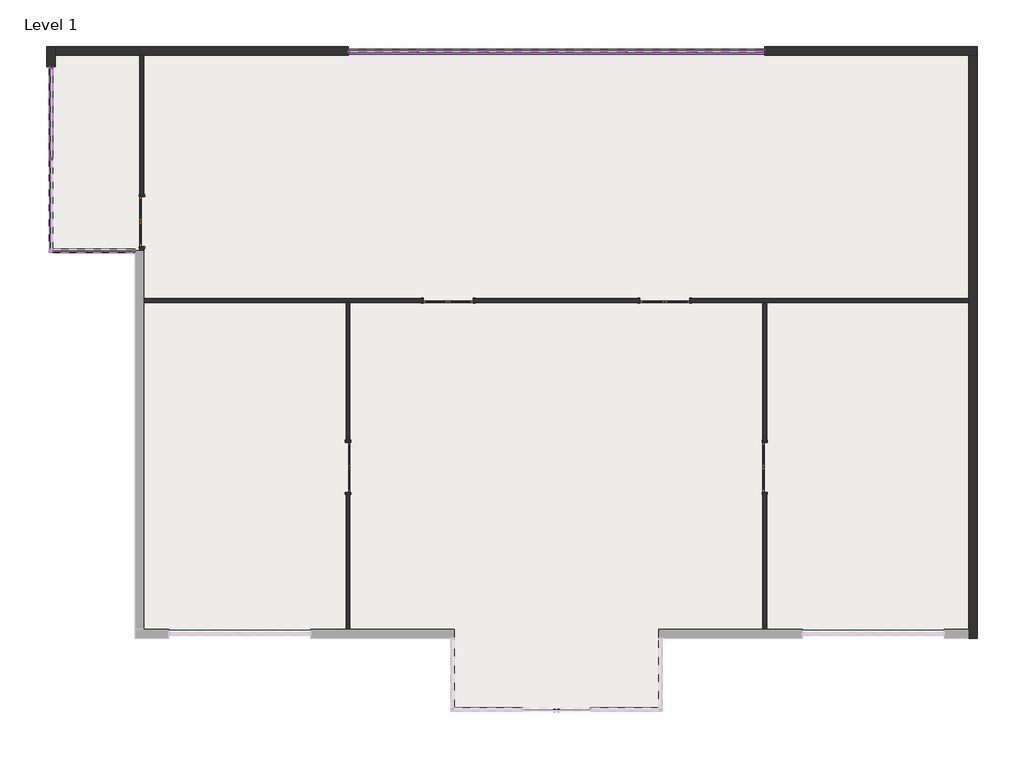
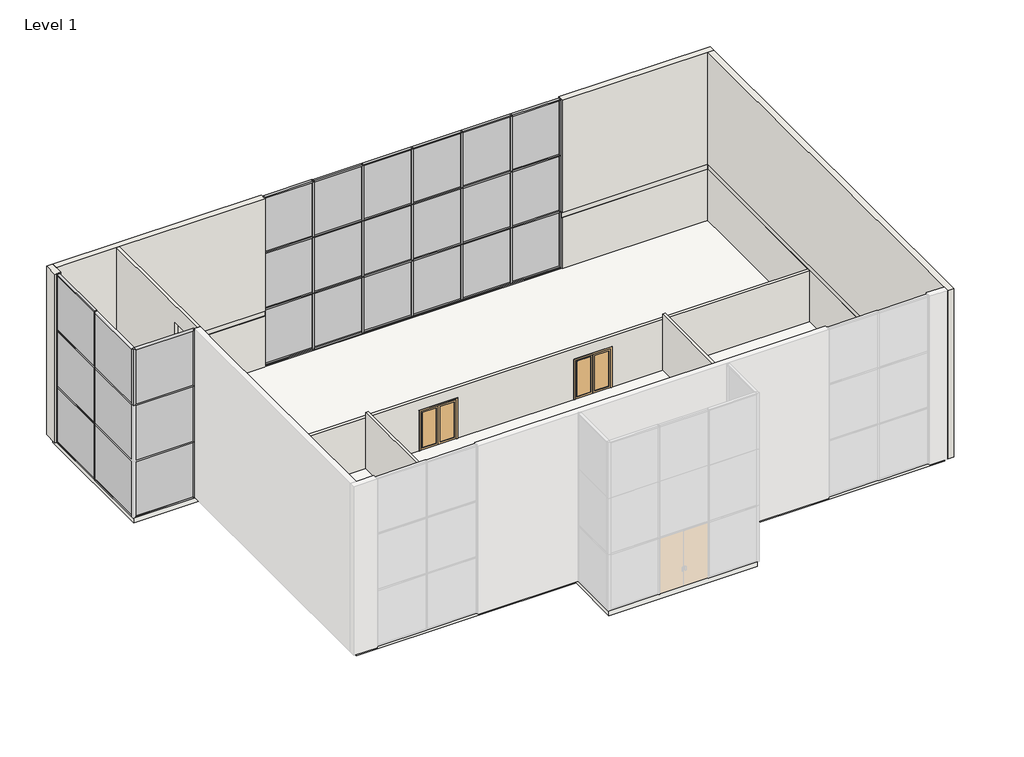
# One storey, part 2 of 2: 61 members, 27 plates, 7 walls, 5 doors, 1 slab.
"""IFC4 building model written with IfcOpenShell, lengths in millimetres."""

from ifc_helpers import new_model, si_unit, frame, origin, place, context, project, spatial, polyline, outline, extrude, faceted_brep, transform, mapped, element, save
from components import door_cb31edf2, door_3f2f997e, member_092dde94, member_3f395ae9, member_65a3e7b2, member_eaba9652, member_4955b6a0, member_9c76a069, member_1f84ea9c, member_2d82c926, member_728bf22d, member_0c17b8a1, system_panel_glazed_e83c8d5a, system_panel_glazed_b0f97b96, system_panel_glazed_f5e36016, system_panel_glazed_d42ca814, system_panel_glazed_c65d631f, system_panel_glazed_26911bd7, system_panel_glazed_bd540f61, system_panel_glazed_3bf1a00e

model = new_model("IFC4")

# Units and contexts
model_context = context("Model", 3, world=origin())
ifc_project = project(units=[si_unit("LENGTHUNIT", "METRE", prefix="MILLI")], contexts=[model_context])

# Site, building, storey
site = spatial("IfcSite", under=ifc_project)
building = spatial("IfcBuilding", under=site)
storey = spatial("IfcBuildingStorey", under=building, Name="Level 1", Elevation=0.0)

# Doors
placement = place(None, origin())
door_shape = door_cb31edf2(model_context)
element("IfcDoor", 1, ObjectType="Door-Double-Glass : 72\" x 84\"", at=placement, inside=storey, context=model_context, shape_type="MappedRepresentation", body=[
    mapped(door_shape, transform((-18248.748632, 9505.1983604, 0.0), x_axis=(0.0, 1.0, 0.0), y_axis=(-1.0, 0.0, 0.0), z_axis=(0.0, 0.0, 1.0))),
])
door_2_shape = door_3f2f997e(model_context)
element("IfcDoor", 2, ObjectType="Door-Double-Glass : 72\" x 84\"", at=placement, inside=storey, context=model_context, shape_type="MappedRepresentation", body=[
    mapped(door_2_shape, transform((-10711.298632, 513.5983604, 0.0), x_axis=(0.0, -1.0, 0.0), y_axis=(1.0, 0.0, 0.0), z_axis=(0.0, 0.0, 1.0))),
])
element("IfcDoor", 3, ObjectType="Door-Double-Glass : 72\" x 84\"", at=placement, inside=storey, context=model_context, shape_type="MappedRepresentation", body=[
    mapped(door_2_shape, transform((4533.463868, 513.5983604, 0.0), x_axis=(0.0, 1.0, 0.0), y_axis=(-1.0, 0.0, 0.0), z_axis=(0.0, 0.0, 1.0))),
])
element("IfcDoor", 4, ObjectType="Door-Double-Glass : 72\" x 84\"", at=placement, inside=storey, context=model_context, shape_type="MappedRepresentation", body=[
    mapped(door_2_shape, transform((-7051.317382, 6611.9796104, 0.0), x_axis=(-1.0, 0.0, 0.0), y_axis=(0.0, -1.0, 0.0), z_axis=(0.0, 0.0, 1.0))),
])
element("IfcDoor", 5, ObjectType="Door-Double-Glass : 72\" x 84\"", at=placement, inside=storey, context=model_context, shape_type="MappedRepresentation", body=[
    mapped(door_2_shape, transform((873.482618, 6611.9796104, 0.0), x_axis=(-1.0, 0.0, 0.0), y_axis=(0.0, -1.0, 0.0), z_axis=(0.0, 0.0, 1.0))),
])

# Members
member_shape = member_092dde94(model_context)
element("IfcMember", 6, ObjectType="Quad Corner Mullion : 5\" x 5\" Quad Corner", at=placement, inside=storey, context=model_context, shape_type="MappedRepresentation", body=[
    mapped(member_shape, transform((-21580.117382, 8438.3983604, 6096.0), x_axis=(-1.0, 0.0, 0.0), y_axis=(0.0, 1.0, 0.0), z_axis=(0.0, 0.0, -1.0))),
])
member_2_shape = member_3f395ae9(model_context)
element("IfcMember", 7, ObjectType="Rectangular Mullion : 2.5\" x 5\" rectangular", at=placement, inside=storey, context=model_context, shape_type="MappedRepresentation", body=[
    mapped(member_2_shape, transform((-18484.492382, 8438.3983604, 9144.0), x_axis=(1.0, 0.0, 0.0), y_axis=(0.0, 1.0, 0.0), z_axis=(0.0, 0.0, 1.0))),
])
element("IfcMember", 8, ObjectType="Rectangular Mullion : 2.5\" x 5\" rectangular", at=placement, inside=storey, context=model_context, shape_type="MappedRepresentation", body=[
    mapped(member_2_shape, transform((-18484.492382, 8438.3983604, 3048.0), x_axis=(1.0, 0.0, 0.0), y_axis=(0.0, 1.0, 0.0), z_axis=(0.0, 0.0, 1.0))),
])
member_3_shape = member_65a3e7b2(model_context)
element("IfcMember", 9, ObjectType="Rectangular Mullion : 2.5\" x 5\" rectangular", at=placement, inside=storey, context=model_context, shape_type="MappedRepresentation", body=[
    mapped(member_3_shape, transform((-10645.417382, 15753.5983604, 9144.0), x_axis=(0.0, 0.0, 1.0), y_axis=(0.0, 1.0, 0.0), z_axis=(-1.0, 0.0, 0.0))),
])
element("IfcMember", 10, ObjectType="Rectangular Mullion : 2.5\" x 5\" rectangular", at=placement, inside=storey, context=model_context, shape_type="MappedRepresentation", body=[
    mapped(member_3_shape, transform((2022.8326178, 15753.5983604, 9144.0), x_axis=(0.0, 0.0, 1.0), y_axis=(0.0, 1.0, 0.0), z_axis=(-1.0, 0.0, 0.0))),
])
element("IfcMember", 11, ObjectType="Rectangular Mullion : 2.5\" x 5\" rectangular", at=placement, inside=storey, context=model_context, shape_type="MappedRepresentation", body=[
    mapped(member_3_shape, transform((4467.582618, 15753.5983604, 0.0), x_axis=(0.0, 0.0, -1.0), y_axis=(0.0, 1.0, 0.0), z_axis=(1.0, 0.0, 0.0))),
])
element("IfcMember", 12, ObjectType="Rectangular Mullion : 2.5\" x 5\" rectangular", at=placement, inside=storey, context=model_context, shape_type="MappedRepresentation", body=[
    mapped(member_3_shape, transform((-8200.6673818, 15753.5983604, 0.0), x_axis=(0.0, 0.0, -1.0), y_axis=(0.0, 1.0, 0.0), z_axis=(1.0, 0.0, 0.0))),
])
member_4_shape = member_eaba9652(model_context)
element("IfcMember", 13, ObjectType="Rectangular Mullion : 2.5\" x 5\" rectangular", at=placement, inside=storey, context=model_context, shape_type="MappedRepresentation", body=[
    mapped(member_4_shape, transform((1991.0826178, 15753.5983604, 0.0), x_axis=(-1.0, 0.0, 0.0), y_axis=(0.0, 1.0, 0.0), z_axis=(0.0, 0.0, -1.0))),
])
element("IfcMember", 14, ObjectType="Rectangular Mullion : 2.5\" x 5\" rectangular", at=placement, inside=storey, context=model_context, shape_type="MappedRepresentation", body=[
    mapped(member_4_shape, transform((-548.9173821, 15753.5983604, 0.0), x_axis=(-1.0, 0.0, 0.0), y_axis=(0.0, 1.0, 0.0), z_axis=(0.0, 0.0, -1.0))),
])
element("IfcMember", 15, ObjectType="Rectangular Mullion : 2.5\" x 5\" rectangular", at=placement, inside=storey, context=model_context, shape_type="MappedRepresentation", body=[
    mapped(member_4_shape, transform((-3088.917382, 15753.5983604, 0.0), x_axis=(-1.0, 0.0, 0.0), y_axis=(0.0, 1.0, 0.0), z_axis=(0.0, 0.0, -1.0))),
])
element("IfcMember", 16, ObjectType="Rectangular Mullion : 2.5\" x 5\" rectangular", at=placement, inside=storey, context=model_context, shape_type="MappedRepresentation", body=[
    mapped(member_4_shape, transform((-5628.9173819, 15753.5983604, 0.0), x_axis=(-1.0, 0.0, 0.0), y_axis=(0.0, 1.0, 0.0), z_axis=(0.0, 0.0, -1.0))),
])
element("IfcMember", 17, ObjectType="Rectangular Mullion : 2.5\" x 5\" rectangular", at=placement, inside=storey, context=model_context, shape_type="MappedRepresentation", body=[
    mapped(member_4_shape, transform((-8168.9173818, 15753.5983604, 0.0), x_axis=(-1.0, 0.0, 0.0), y_axis=(0.0, 1.0, 0.0), z_axis=(0.0, 0.0, -1.0))),
])
element("IfcMember", 18, ObjectType="Rectangular Mullion : 2.5\" x 5\" rectangular", at=placement, inside=storey, context=model_context, shape_type="MappedRepresentation", body=[
    mapped(member_4_shape, transform((-21580.117382, 11807.0733604, 0.0), x_axis=(0.0, -1.0, 0.0), y_axis=(-1.0, 0.0, 0.0), z_axis=(0.0, 0.0, -1.0))),
])
member_5_shape = member_4955b6a0(model_context)
element("IfcMember", 19, ObjectType="Rectangular Mullion : 2.5\" x 5\" rectangular", at=placement, inside=storey, context=model_context, shape_type="MappedRepresentation", body=[
    mapped(member_5_shape, transform((2022.8326178, 15753.5983604, 3048.0), x_axis=(0.0, 0.0, 1.0), y_axis=(0.0, 1.0, 0.0), z_axis=(-1.0, 0.0, 0.0))),
])
element("IfcMember", 20, ObjectType="Rectangular Mullion : 2.5\" x 5\" rectangular", at=placement, inside=storey, context=model_context, shape_type="MappedRepresentation", body=[
    mapped(member_5_shape, transform((-10645.417382, 15753.5983604, 3048.0), x_axis=(0.0, 0.0, 1.0), y_axis=(0.0, 1.0, 0.0), z_axis=(-1.0, 0.0, 0.0))),
])
element("IfcMember", 21, ObjectType="Rectangular Mullion : 2.5\" x 5\" rectangular", at=placement, inside=storey, context=model_context, shape_type="MappedRepresentation", body=[
    mapped(member_5_shape, transform((2022.8326178, 15753.5983604, 6096.0), x_axis=(0.0, 0.0, 1.0), y_axis=(0.0, 1.0, 0.0), z_axis=(-1.0, 0.0, 0.0))),
])
element("IfcMember", 22, ObjectType="Rectangular Mullion : 2.5\" x 5\" rectangular", at=placement, inside=storey, context=model_context, shape_type="MappedRepresentation", body=[
    mapped(member_5_shape, transform((-10645.417382, 15753.5983604, 6096.0), x_axis=(0.0, 0.0, 1.0), y_axis=(0.0, 1.0, 0.0), z_axis=(-1.0, 0.0, 0.0))),
])
member_6_shape = member_9c76a069(model_context)
element("IfcMember", 23, ObjectType="Rectangular Mullion : 2.5\" x 5\" rectangular", at=placement, inside=storey, context=model_context, shape_type="MappedRepresentation", body=[
    mapped(member_6_shape, transform((-517.1673821, 15753.5983604, 3048.0), x_axis=(0.0, 0.0, 1.0), y_axis=(0.0, 1.0, 0.0), z_axis=(-1.0, 0.0, 0.0))),
])
element("IfcMember", 24, ObjectType="Rectangular Mullion : 2.5\" x 5\" rectangular", at=placement, inside=storey, context=model_context, shape_type="MappedRepresentation", body=[
    mapped(member_6_shape, transform((-3057.167382, 15753.5983604, 3048.0), x_axis=(0.0, 0.0, 1.0), y_axis=(0.0, 1.0, 0.0), z_axis=(-1.0, 0.0, 0.0))),
])
element("IfcMember", 25, ObjectType="Rectangular Mullion : 2.5\" x 5\" rectangular", at=placement, inside=storey, context=model_context, shape_type="MappedRepresentation", body=[
    mapped(member_6_shape, transform((-5597.1673819, 15753.5983604, 3048.0), x_axis=(0.0, 0.0, 1.0), y_axis=(0.0, 1.0, 0.0), z_axis=(-1.0, 0.0, 0.0))),
])
element("IfcMember", 26, ObjectType="Rectangular Mullion : 2.5\" x 5\" rectangular", at=placement, inside=storey, context=model_context, shape_type="MappedRepresentation", body=[
    mapped(member_6_shape, transform((-8137.1673818, 15753.5983604, 3048.0), x_axis=(0.0, 0.0, 1.0), y_axis=(0.0, 1.0, 0.0), z_axis=(-1.0, 0.0, 0.0))),
])
element("IfcMember", 27, ObjectType="Rectangular Mullion : 2.5\" x 5\" rectangular", at=placement, inside=storey, context=model_context, shape_type="MappedRepresentation", body=[
    mapped(member_6_shape, transform((-517.1673821, 15753.5983604, 6096.0), x_axis=(0.0, 0.0, 1.0), y_axis=(0.0, 1.0, 0.0), z_axis=(-1.0, 0.0, 0.0))),
])
element("IfcMember", 28, ObjectType="Rectangular Mullion : 2.5\" x 5\" rectangular", at=placement, inside=storey, context=model_context, shape_type="MappedRepresentation", body=[
    mapped(member_6_shape, transform((-3057.167382, 15753.5983604, 6096.0), x_axis=(0.0, 0.0, 1.0), y_axis=(0.0, 1.0, 0.0), z_axis=(-1.0, 0.0, 0.0))),
])
element("IfcMember", 29, ObjectType="Rectangular Mullion : 2.5\" x 5\" rectangular", at=placement, inside=storey, context=model_context, shape_type="MappedRepresentation", body=[
    mapped(member_6_shape, transform((-5597.1673819, 15753.5983604, 6096.0), x_axis=(0.0, 0.0, 1.0), y_axis=(0.0, 1.0, 0.0), z_axis=(-1.0, 0.0, 0.0))),
])
element("IfcMember", 30, ObjectType="Rectangular Mullion : 2.5\" x 5\" rectangular", at=placement, inside=storey, context=model_context, shape_type="MappedRepresentation", body=[
    mapped(member_6_shape, transform((-8137.1673818, 15753.5983604, 6096.0), x_axis=(0.0, 0.0, 1.0), y_axis=(0.0, 1.0, 0.0), z_axis=(-1.0, 0.0, 0.0))),
])
member_7_shape = member_1f84ea9c(model_context)
element("IfcMember", 31, ObjectType="Rectangular Mullion : 2.5\" x 5\" rectangular", at=placement, inside=storey, context=model_context, shape_type="MappedRepresentation", body=[
    mapped(member_7_shape, transform((1959.3326178, 15753.5983604, 0.0), x_axis=(0.0, 0.0, -1.0), y_axis=(0.0, 1.0, 0.0), z_axis=(1.0, 0.0, 0.0))),
])
element("IfcMember", 32, ObjectType="Rectangular Mullion : 2.5\" x 5\" rectangular", at=placement, inside=storey, context=model_context, shape_type="MappedRepresentation", body=[
    mapped(member_7_shape, transform((-580.6673821, 15753.5983604, 0.0), x_axis=(0.0, 0.0, -1.0), y_axis=(0.0, 1.0, 0.0), z_axis=(1.0, 0.0, 0.0))),
])
element("IfcMember", 33, ObjectType="Rectangular Mullion : 2.5\" x 5\" rectangular", at=placement, inside=storey, context=model_context, shape_type="MappedRepresentation", body=[
    mapped(member_7_shape, transform((-3120.667382, 15753.5983604, 0.0), x_axis=(0.0, 0.0, -1.0), y_axis=(0.0, 1.0, 0.0), z_axis=(1.0, 0.0, 0.0))),
])
element("IfcMember", 34, ObjectType="Rectangular Mullion : 2.5\" x 5\" rectangular", at=placement, inside=storey, context=model_context, shape_type="MappedRepresentation", body=[
    mapped(member_7_shape, transform((-5660.6673819, 15753.5983604, 0.0), x_axis=(0.0, 0.0, -1.0), y_axis=(0.0, 1.0, 0.0), z_axis=(1.0, 0.0, 0.0))),
])
element("IfcMember", 35, ObjectType="Rectangular Mullion : 2.5\" x 5\" rectangular", at=placement, inside=storey, context=model_context, shape_type="MappedRepresentation", body=[
    mapped(member_7_shape, transform((-517.1673821, 15753.5983604, 9144.0), x_axis=(0.0, 0.0, 1.0), y_axis=(0.0, 1.0, 0.0), z_axis=(-1.0, 0.0, 0.0))),
])
element("IfcMember", 36, ObjectType="Rectangular Mullion : 2.5\" x 5\" rectangular", at=placement, inside=storey, context=model_context, shape_type="MappedRepresentation", body=[
    mapped(member_7_shape, transform((-3057.167382, 15753.5983604, 9144.0), x_axis=(0.0, 0.0, 1.0), y_axis=(0.0, 1.0, 0.0), z_axis=(-1.0, 0.0, 0.0))),
])
element("IfcMember", 37, ObjectType="Rectangular Mullion : 2.5\" x 5\" rectangular", at=placement, inside=storey, context=model_context, shape_type="MappedRepresentation", body=[
    mapped(member_7_shape, transform((-5597.1673819, 15753.5983604, 9144.0), x_axis=(0.0, 0.0, 1.0), y_axis=(0.0, 1.0, 0.0), z_axis=(-1.0, 0.0, 0.0))),
])
element("IfcMember", 38, ObjectType="Rectangular Mullion : 2.5\" x 5\" rectangular", at=placement, inside=storey, context=model_context, shape_type="MappedRepresentation", body=[
    mapped(member_7_shape, transform((-8137.1673818, 15753.5983604, 9144.0), x_axis=(0.0, 0.0, 1.0), y_axis=(0.0, 1.0, 0.0), z_axis=(-1.0, 0.0, 0.0))),
])
element("IfcMember", 39, ObjectType="Rectangular Mullion : 2.5\" x 5\" rectangular", at=placement, inside=storey, context=model_context, shape_type="MappedRepresentation", body=[
    mapped(member_4_shape, transform((1991.0826178, 15753.5983604, 3048.0), x_axis=(-1.0, 0.0, 0.0), y_axis=(0.0, 1.0, 0.0), z_axis=(0.0, 0.0, -1.0))),
])
element("IfcMember", 40, ObjectType="Rectangular Mullion : 2.5\" x 5\" rectangular", at=placement, inside=storey, context=model_context, shape_type="MappedRepresentation", body=[
    mapped(member_4_shape, transform((-548.9173821, 15753.5983604, 3048.0), x_axis=(-1.0, 0.0, 0.0), y_axis=(0.0, 1.0, 0.0), z_axis=(0.0, 0.0, -1.0))),
])
element("IfcMember", 41, ObjectType="Rectangular Mullion : 2.5\" x 5\" rectangular", at=placement, inside=storey, context=model_context, shape_type="MappedRepresentation", body=[
    mapped(member_4_shape, transform((-3088.917382, 15753.5983604, 3048.0), x_axis=(-1.0, 0.0, 0.0), y_axis=(0.0, 1.0, 0.0), z_axis=(0.0, 0.0, -1.0))),
])
element("IfcMember", 42, ObjectType="Rectangular Mullion : 2.5\" x 5\" rectangular", at=placement, inside=storey, context=model_context, shape_type="MappedRepresentation", body=[
    mapped(member_4_shape, transform((-5628.9173819, 15753.5983604, 3048.0), x_axis=(-1.0, 0.0, 0.0), y_axis=(0.0, 1.0, 0.0), z_axis=(0.0, 0.0, -1.0))),
])
element("IfcMember", 43, ObjectType="Rectangular Mullion : 2.5\" x 5\" rectangular", at=placement, inside=storey, context=model_context, shape_type="MappedRepresentation", body=[
    mapped(member_4_shape, transform((-8168.9173818, 15753.5983604, 3048.0), x_axis=(-1.0, 0.0, 0.0), y_axis=(0.0, 1.0, 0.0), z_axis=(0.0, 0.0, -1.0))),
])
element("IfcMember", 44, ObjectType="Rectangular Mullion : 2.5\" x 5\" rectangular", at=placement, inside=storey, context=model_context, shape_type="MappedRepresentation", body=[
    mapped(member_4_shape, transform((-21580.117382, 11807.0733604, 3048.0), x_axis=(0.0, -1.0, 0.0), y_axis=(-1.0, 0.0, 0.0), z_axis=(0.0, 0.0, -1.0))),
])
element("IfcMember", 45, ObjectType="Rectangular Mullion : 2.5\" x 5\" rectangular", at=placement, inside=storey, context=model_context, shape_type="MappedRepresentation", body=[
    mapped(member_4_shape, transform((1991.0826178, 15753.5983604, 6096.0), x_axis=(-1.0, 0.0, 0.0), y_axis=(0.0, 1.0, 0.0), z_axis=(0.0, 0.0, -1.0))),
])
element("IfcMember", 46, ObjectType="Rectangular Mullion : 2.5\" x 5\" rectangular", at=placement, inside=storey, context=model_context, shape_type="MappedRepresentation", body=[
    mapped(member_4_shape, transform((-548.9173821, 15753.5983604, 6096.0), x_axis=(-1.0, 0.0, 0.0), y_axis=(0.0, 1.0, 0.0), z_axis=(0.0, 0.0, -1.0))),
])
element("IfcMember", 47, ObjectType="Rectangular Mullion : 2.5\" x 5\" rectangular", at=placement, inside=storey, context=model_context, shape_type="MappedRepresentation", body=[
    mapped(member_4_shape, transform((-3088.917382, 15753.5983604, 6096.0), x_axis=(-1.0, 0.0, 0.0), y_axis=(0.0, 1.0, 0.0), z_axis=(0.0, 0.0, -1.0))),
])
element("IfcMember", 48, ObjectType="Rectangular Mullion : 2.5\" x 5\" rectangular", at=placement, inside=storey, context=model_context, shape_type="MappedRepresentation", body=[
    mapped(member_4_shape, transform((-5628.9173819, 15753.5983604, 6096.0), x_axis=(-1.0, 0.0, 0.0), y_axis=(0.0, 1.0, 0.0), z_axis=(0.0, 0.0, -1.0))),
])
element("IfcMember", 49, ObjectType="Rectangular Mullion : 2.5\" x 5\" rectangular", at=placement, inside=storey, context=model_context, shape_type="MappedRepresentation", body=[
    mapped(member_4_shape, transform((-8168.9173818, 15753.5983604, 6096.0), x_axis=(-1.0, 0.0, 0.0), y_axis=(0.0, 1.0, 0.0), z_axis=(0.0, 0.0, -1.0))),
])
element("IfcMember", 50, ObjectType="Rectangular Mullion : 2.5\" x 5\" rectangular", at=placement, inside=storey, context=model_context, shape_type="MappedRepresentation", body=[
    mapped(member_4_shape, transform((-21580.117382, 11807.0733604, 6096.0), x_axis=(0.0, -1.0, 0.0), y_axis=(-1.0, 0.0, 0.0), z_axis=(0.0, 0.0, -1.0))),
])
element("IfcMember", 51, ObjectType="Rectangular Mullion : 2.5\" x 5\" rectangular", at=placement, inside=storey, context=model_context, shape_type="MappedRepresentation", body=[
    mapped(member_2_shape, transform((4531.082618, 15753.5983604, 9144.0), x_axis=(1.0, 0.0, 0.0), y_axis=(0.0, 1.0, 0.0), z_axis=(0.0, 0.0, 1.0))),
])
element("IfcMember", 52, ObjectType="Rectangular Mullion : 2.5\" x 5\" rectangular", at=placement, inside=storey, context=model_context, shape_type="MappedRepresentation", body=[
    mapped(member_2_shape, transform((-21580.117382, 15175.7483604, 9144.0), x_axis=(0.0, 1.0, 0.0), y_axis=(-1.0, 0.0, 0.0), z_axis=(0.0, 0.0, 1.0))),
])
element("IfcMember", 53, ObjectType="Rectangular Mullion : 2.5\" x 5\" rectangular", at=placement, inside=storey, context=model_context, shape_type="MappedRepresentation", body=[
    mapped(member_2_shape, transform((-10708.917382, 15753.5983604, 0.0), x_axis=(-1.0, 0.0, 0.0), y_axis=(0.0, 1.0, 0.0), z_axis=(0.0, 0.0, -1.0))),
])
element("IfcMember", 54, ObjectType="Rectangular Mullion : 2.5\" x 5\" rectangular", at=placement, inside=storey, context=model_context, shape_type="MappedRepresentation", body=[
    mapped(member_2_shape, transform((-10708.917382, 15753.5983604, 3048.0), x_axis=(-1.0, 0.0, 0.0), y_axis=(0.0, 1.0, 0.0), z_axis=(0.0, 0.0, -1.0))),
])
element("IfcMember", 55, ObjectType="Rectangular Mullion : 2.5\" x 5\" rectangular", at=placement, inside=storey, context=model_context, shape_type="MappedRepresentation", body=[
    mapped(member_2_shape, transform((-10708.917382, 15753.5983604, 6096.0), x_axis=(-1.0, 0.0, 0.0), y_axis=(0.0, 1.0, 0.0), z_axis=(0.0, 0.0, -1.0))),
])
element("IfcMember", 56, ObjectType="Rectangular Mullion : 2.5\" x 5\" rectangular", at=placement, inside=storey, context=model_context, shape_type="MappedRepresentation", body=[
    mapped(member_2_shape, transform((4531.082618, 15753.5983604, 3048.0), x_axis=(1.0, 0.0, 0.0), y_axis=(0.0, 1.0, 0.0), z_axis=(0.0, 0.0, 1.0))),
])
element("IfcMember", 57, ObjectType="Rectangular Mullion : 2.5\" x 5\" rectangular", at=placement, inside=storey, context=model_context, shape_type="MappedRepresentation", body=[
    mapped(member_2_shape, transform((-21580.117382, 15175.7483604, 3048.0), x_axis=(0.0, 1.0, 0.0), y_axis=(-1.0, 0.0, 0.0), z_axis=(0.0, 0.0, 1.0))),
])
element("IfcMember", 58, ObjectType="Rectangular Mullion : 2.5\" x 5\" rectangular", at=placement, inside=storey, context=model_context, shape_type="MappedRepresentation", body=[
    mapped(member_2_shape, transform((4531.082618, 15753.5983604, 6096.0), x_axis=(1.0, 0.0, 0.0), y_axis=(0.0, 1.0, 0.0), z_axis=(0.0, 0.0, 1.0))),
])
element("IfcMember", 59, ObjectType="Rectangular Mullion : 2.5\" x 5\" rectangular", at=placement, inside=storey, context=model_context, shape_type="MappedRepresentation", body=[
    mapped(member_2_shape, transform((-21580.117382, 15175.7483604, 6096.0), x_axis=(0.0, 1.0, 0.0), y_axis=(-1.0, 0.0, 0.0), z_axis=(0.0, 0.0, 1.0))),
])
element("IfcMember", 60, ObjectType="Rectangular Mullion : 2.5\" x 5\" rectangular", at=placement, inside=storey, context=model_context, shape_type="MappedRepresentation", body=[
    mapped(member_2_shape, transform((-18484.492382, 8438.3983604, 6096.0), x_axis=(1.0, 0.0, 0.0), y_axis=(0.0, 1.0, 0.0), z_axis=(0.0, 0.0, 1.0))),
])
member_8_shape = member_2d82c926(model_context)
element("IfcMember", 61, ObjectType="Rectangular Mullion : 2.5\" x 5\" rectangular", at=placement, inside=storey, context=model_context, shape_type="MappedRepresentation", body=[
    mapped(member_8_shape, transform((-21580.117382, 11838.8233604, 9144.0), x_axis=(0.0, 0.0, 1.0), y_axis=(-1.0, 0.0, 0.0), z_axis=(0.0, -1.0, 0.0))),
])
element("IfcMember", 62, ObjectType="Rectangular Mullion : 2.5\" x 5\" rectangular", at=placement, inside=storey, context=model_context, shape_type="MappedRepresentation", body=[
    mapped(member_8_shape, transform((-21580.117382, 15112.2483604, 0.0), x_axis=(0.0, 0.0, -1.0), y_axis=(-1.0, 0.0, 0.0), z_axis=(0.0, 1.0, 0.0))),
])
element("IfcMember", 63, ObjectType="Rectangular Mullion : 2.5\" x 5\" rectangular", at=placement, inside=storey, context=model_context, shape_type="MappedRepresentation", body=[
    mapped(member_8_shape, transform((-21580.117382, 11775.3233604, 0.0), x_axis=(0.0, 0.0, -1.0), y_axis=(-1.0, 0.0, 0.0), z_axis=(0.0, 1.0, 0.0))),
])
member_9_shape = member_728bf22d(model_context)
element("IfcMember", 64, ObjectType="Rectangular Mullion : 2.5\" x 5\" rectangular", at=placement, inside=storey, context=model_context, shape_type="MappedRepresentation", body=[
    mapped(member_9_shape, transform((-21580.117382, 11838.8233604, 3048.0), x_axis=(0.0, 0.0, 1.0), y_axis=(-1.0, 0.0, 0.0), z_axis=(0.0, -1.0, 0.0))),
])
element("IfcMember", 65, ObjectType="Rectangular Mullion : 2.5\" x 5\" rectangular", at=placement, inside=storey, context=model_context, shape_type="MappedRepresentation", body=[
    mapped(member_9_shape, transform((-21580.117382, 11838.8233604, 6096.0), x_axis=(0.0, 0.0, 1.0), y_axis=(-1.0, 0.0, 0.0), z_axis=(0.0, -1.0, 0.0))),
])
member_10_shape = member_0c17b8a1(model_context)
element("IfcMember", 66, ObjectType="Rectangular Mullion : 2.5\" x 5\" rectangular", at=placement, inside=storey, context=model_context, shape_type="MappedRepresentation", body=[
    mapped(member_10_shape, transform((-18547.992382, 8438.3983604, 0.0), x_axis=(0.0, 0.0, -1.0), y_axis=(0.0, 1.0, 0.0), z_axis=(1.0, 0.0, 0.0))),
])

# Plates
system_panel_glazed_shape = system_panel_glazed_e83c8d5a(model_context)
element("IfcPlate", 67, ObjectType="System Panel : Glazed", at=placement, inside=storey, context=model_context, shape_type="MappedRepresentation", body=[
    mapped(system_panel_glazed_shape, transform((3245.2076179, 15753.5983604, 63.5), x_axis=(-1.0, 0.0, 0.0), y_axis=(0.0, -1.0, 0.0), z_axis=(0.0, 0.0, 1.0))),
])
element("IfcPlate", 68, ObjectType="System Panel : Glazed", at=placement, inside=storey, context=model_context, shape_type="MappedRepresentation", body=[
    mapped(system_panel_glazed_shape, transform((-9423.0423819, 15753.5983604, 63.5), x_axis=(-1.0, 0.0, 0.0), y_axis=(0.0, -1.0, 0.0), z_axis=(0.0, 0.0, 1.0))),
])
element("IfcPlate", 69, ObjectType="System Panel : Glazed", at=placement, inside=storey, context=model_context, shape_type="MappedRepresentation", body=[
    mapped(system_panel_glazed_shape, transform((3245.2076179, 15753.5983604, 6127.75), x_axis=(-1.0, 0.0, 0.0), y_axis=(0.0, -1.0, 0.0), z_axis=(0.0, 0.0, 1.0))),
])
element("IfcPlate", 70, ObjectType="System Panel : Glazed", at=placement, inside=storey, context=model_context, shape_type="MappedRepresentation", body=[
    mapped(system_panel_glazed_shape, transform((-9423.0423819, 15753.5983604, 6127.75), x_axis=(-1.0, 0.0, 0.0), y_axis=(0.0, -1.0, 0.0), z_axis=(0.0, 0.0, 1.0))),
])
system_panel_glazed_2_shape = system_panel_glazed_b0f97b96(model_context)
element("IfcPlate", 71, ObjectType="System Panel : Glazed", at=placement, inside=storey, context=model_context, shape_type="MappedRepresentation", body=[
    mapped(system_panel_glazed_2_shape, transform((721.0826179, 15753.5983604, 63.5), x_axis=(-1.0, 0.0, 0.0), y_axis=(0.0, -1.0, 0.0), z_axis=(0.0, 0.0, 1.0))),
])
element("IfcPlate", 72, ObjectType="System Panel : Glazed", at=placement, inside=storey, context=model_context, shape_type="MappedRepresentation", body=[
    mapped(system_panel_glazed_2_shape, transform((-1818.917382, 15753.5983604, 63.5), x_axis=(-1.0, 0.0, 0.0), y_axis=(0.0, -1.0, 0.0), z_axis=(0.0, 0.0, 1.0))),
])
element("IfcPlate", 73, ObjectType="System Panel : Glazed", at=placement, inside=storey, context=model_context, shape_type="MappedRepresentation", body=[
    mapped(system_panel_glazed_2_shape, transform((-4358.9173819, 15753.5983604, 63.5), x_axis=(-1.0, 0.0, 0.0), y_axis=(0.0, -1.0, 0.0), z_axis=(0.0, 0.0, 1.0))),
])
element("IfcPlate", 74, ObjectType="System Panel : Glazed", at=placement, inside=storey, context=model_context, shape_type="MappedRepresentation", body=[
    mapped(system_panel_glazed_2_shape, transform((-6898.9173818, 15753.5983604, 63.5), x_axis=(-1.0, 0.0, 0.0), y_axis=(0.0, -1.0, 0.0), z_axis=(0.0, 0.0, 1.0))),
])
element("IfcPlate", 75, ObjectType="System Panel : Glazed", at=placement, inside=storey, context=model_context, shape_type="MappedRepresentation", body=[
    mapped(system_panel_glazed_2_shape, transform((721.0826179, 15753.5983604, 6127.75), x_axis=(-1.0, 0.0, 0.0), y_axis=(0.0, -1.0, 0.0), z_axis=(0.0, 0.0, 1.0))),
])
element("IfcPlate", 76, ObjectType="System Panel : Glazed", at=placement, inside=storey, context=model_context, shape_type="MappedRepresentation", body=[
    mapped(system_panel_glazed_2_shape, transform((-1818.917382, 15753.5983604, 6127.75), x_axis=(-1.0, 0.0, 0.0), y_axis=(0.0, -1.0, 0.0), z_axis=(0.0, 0.0, 1.0))),
])
element("IfcPlate", 77, ObjectType="System Panel : Glazed", at=placement, inside=storey, context=model_context, shape_type="MappedRepresentation", body=[
    mapped(system_panel_glazed_2_shape, transform((-4358.9173819, 15753.5983604, 6127.75), x_axis=(-1.0, 0.0, 0.0), y_axis=(0.0, -1.0, 0.0), z_axis=(0.0, 0.0, 1.0))),
])
element("IfcPlate", 78, ObjectType="System Panel : Glazed", at=placement, inside=storey, context=model_context, shape_type="MappedRepresentation", body=[
    mapped(system_panel_glazed_2_shape, transform((-6898.9173818, 15753.5983604, 6127.75), x_axis=(-1.0, 0.0, 0.0), y_axis=(0.0, -1.0, 0.0), z_axis=(0.0, 0.0, 1.0))),
])
system_panel_glazed_3_shape = system_panel_glazed_f5e36016(model_context)
element("IfcPlate", 79, ObjectType="System Panel : Glazed", at=placement, inside=storey, context=model_context, shape_type="MappedRepresentation", body=[
    mapped(system_panel_glazed_3_shape, transform((3245.2076179, 15753.5983604, 3079.75), x_axis=(-1.0, 0.0, 0.0), y_axis=(0.0, -1.0, 0.0), z_axis=(0.0, 0.0, 1.0))),
])
element("IfcPlate", 80, ObjectType="System Panel : Glazed", at=placement, inside=storey, context=model_context, shape_type="MappedRepresentation", body=[
    mapped(system_panel_glazed_3_shape, transform((-9423.0423819, 15753.5983604, 3079.75), x_axis=(-1.0, 0.0, 0.0), y_axis=(0.0, -1.0, 0.0), z_axis=(0.0, 0.0, 1.0))),
])
system_panel_glazed_4_shape = system_panel_glazed_d42ca814(model_context)
element("IfcPlate", 81, ObjectType="System Panel : Glazed", at=placement, inside=storey, context=model_context, shape_type="MappedRepresentation", body=[
    mapped(system_panel_glazed_4_shape, transform((721.0826179, 15753.5983604, 3079.75), x_axis=(-1.0, 0.0, 0.0), y_axis=(0.0, -1.0, 0.0), z_axis=(0.0, 0.0, 1.0))),
])
element("IfcPlate", 82, ObjectType="System Panel : Glazed", at=placement, inside=storey, context=model_context, shape_type="MappedRepresentation", body=[
    mapped(system_panel_glazed_4_shape, transform((-1818.917382, 15753.5983604, 3079.75), x_axis=(-1.0, 0.0, 0.0), y_axis=(0.0, -1.0, 0.0), z_axis=(0.0, 0.0, 1.0))),
])
element("IfcPlate", 83, ObjectType="System Panel : Glazed", at=placement, inside=storey, context=model_context, shape_type="MappedRepresentation", body=[
    mapped(system_panel_glazed_4_shape, transform((-4358.9173819, 15753.5983604, 3079.75), x_axis=(-1.0, 0.0, 0.0), y_axis=(0.0, -1.0, 0.0), z_axis=(0.0, 0.0, 1.0))),
])
element("IfcPlate", 84, ObjectType="System Panel : Glazed", at=placement, inside=storey, context=model_context, shape_type="MappedRepresentation", body=[
    mapped(system_panel_glazed_4_shape, transform((-6898.9173818, 15753.5983604, 3079.75), x_axis=(-1.0, 0.0, 0.0), y_axis=(0.0, -1.0, 0.0), z_axis=(0.0, 0.0, 1.0))),
])
system_panel_glazed_5_shape = system_panel_glazed_c65d631f(model_context)
element("IfcPlate", 85, ObjectType="System Panel : Glazed", at=placement, inside=storey, context=model_context, shape_type="MappedRepresentation", body=[
    mapped(system_panel_glazed_5_shape, transform((-21580.117382, 13475.5358604, 63.5), x_axis=(0.0, -1.0, 0.0), y_axis=(1.0, 0.0, 0.0), z_axis=(0.0, 0.0, 1.0))),
])
element("IfcPlate", 86, ObjectType="System Panel : Glazed", at=placement, inside=storey, context=model_context, shape_type="MappedRepresentation", body=[
    mapped(system_panel_glazed_5_shape, transform((-21580.117382, 13475.5358604, 6127.75), x_axis=(0.0, -1.0, 0.0), y_axis=(1.0, 0.0, 0.0), z_axis=(0.0, 0.0, 1.0))),
])
element("IfcPlate", 87, ObjectType="System Panel : Glazed", at=placement, inside=storey, context=model_context, shape_type="MappedRepresentation", body=[
    mapped(system_panel_glazed_5_shape, transform((-21580.117382, 10138.6108604, 63.5), x_axis=(0.0, -1.0, 0.0), y_axis=(1.0, 0.0, 0.0), z_axis=(0.0, 0.0, 1.0))),
])
element("IfcPlate", 88, ObjectType="System Panel : Glazed", at=placement, inside=storey, context=model_context, shape_type="MappedRepresentation", body=[
    mapped(system_panel_glazed_5_shape, transform((-21580.117382, 10138.6108604, 6127.75), x_axis=(0.0, -1.0, 0.0), y_axis=(1.0, 0.0, 0.0), z_axis=(0.0, 0.0, 1.0))),
])
system_panel_glazed_6_shape = system_panel_glazed_26911bd7(model_context)
element("IfcPlate", 89, ObjectType="System Panel : Glazed", at=placement, inside=storey, context=model_context, shape_type="MappedRepresentation", body=[
    mapped(system_panel_glazed_6_shape, transform((-21580.117382, 13475.5358604, 3079.75), x_axis=(0.0, -1.0, 0.0), y_axis=(1.0, 0.0, 0.0), z_axis=(0.0, 0.0, 1.0))),
])
element("IfcPlate", 90, ObjectType="System Panel : Glazed", at=placement, inside=storey, context=model_context, shape_type="MappedRepresentation", body=[
    mapped(system_panel_glazed_6_shape, transform((-21580.117382, 10138.6108604, 3079.75), x_axis=(0.0, -1.0, 0.0), y_axis=(1.0, 0.0, 0.0), z_axis=(0.0, 0.0, 1.0))),
])
system_panel_glazed_7_shape = system_panel_glazed_bd540f61(model_context)
element("IfcPlate", 91, ObjectType="System Panel : Glazed", at=placement, inside=storey, context=model_context, shape_type="MappedRepresentation", body=[
    mapped(system_panel_glazed_7_shape, transform((-20032.304882, 8438.3983604, 63.5), x_axis=(-1.0, 0.0, 0.0), y_axis=(0.0, -1.0, 0.0), z_axis=(0.0, 0.0, 1.0))),
])
element("IfcPlate", 92, ObjectType="System Panel : Glazed", at=placement, inside=storey, context=model_context, shape_type="MappedRepresentation", body=[
    mapped(system_panel_glazed_7_shape, transform((-20032.304882, 8438.3983604, 6127.75), x_axis=(-1.0, 0.0, 0.0), y_axis=(0.0, -1.0, 0.0), z_axis=(0.0, 0.0, 1.0))),
])
system_panel_glazed_8_shape = system_panel_glazed_3bf1a00e(model_context)
element("IfcPlate", 93, ObjectType="System Panel : Glazed", at=placement, inside=storey, context=model_context, shape_type="MappedRepresentation", body=[
    mapped(system_panel_glazed_8_shape, transform((-20032.304882, 8438.3983604, 3079.75), x_axis=(-1.0, 0.0, 0.0), y_axis=(0.0, -1.0, 0.0), z_axis=(0.0, 0.0, 1.0))),
])

# Slab
element("IfcSlab", 94, ObjectType="Generic - 12\"", at=placement, inside=storey, context=model_context, shape_type="SweptSolid", body=[
    extrude(outline(polyline([(12008.207618, 15610.7233604), (12008.207618, -5439.5266396), (721.082618, -5439.5266396), (721.082618, -8357.3516396), (-6898.917382, -8357.3516396), (-6898.917382, -5439.5266396), (-18186.042382, -5439.5266396), (-18186.042382, 8438.3983604), (-21580.117382, 8438.3983604), (-21580.117382, 15610.7233604), (12008.207618, 15610.7233604)])), frame((0.0, 0.0, -304.8), z_axis=(0.0, 0.0, 1.0), x_axis=(1.0, 0.0, 0.0)), (0.0, 0.0, 1.0), 304.8),
])

# Walls
element("IfcWall", 95, ObjectType="Exterior - EIFS on Mtl. Stud", at=placement, inside=storey, context=model_context, shape_type="Brep", body=[
    faceted_brep([(12306.657618, 15598.0233604, 0.0), (12306.657618, 15598.0233604, 9144.0), (11995.507618, 15598.0233604, 9144.0), (4531.082618, 15598.0233604, 9144.0), (4531.082618, 15598.0233604, 3048.0), (11995.507618, 15598.0233604, 3048.0), (12008.207618, 15598.0233604, 3048.0), (12008.207618, 15598.0233604, 2774.95), (11995.507618, 15598.0233604, 2774.95), (4531.082618, 15598.0233604, 2774.95), (4531.082618, 15598.0233604, 0.0), (11995.507618, 15598.0233604, 0.0), (12306.657618, 15909.1733604, 9144.0), (12306.657618, 15909.1733604, 0.0), (4531.082618, 15909.1733604, 0.0), (4531.082618, 15909.1733604, 9144.0), (4531.082618, 15610.7233604, 2774.95), (4531.082618, 15610.7233604, 3048.0), (12008.207618, 15610.7233604, 2774.95), (12008.207618, 15610.7233604, 3048.0)], [[[0, 1, 2, 3, 4, 5, 6, 7, 8, 9, 10, 11]], [[12, 13, 14, 15]], [[13, 0, 11, 10, 14]], [[1, 12, 15, 3, 2]], [[1, 0, 13, 12]], [[15, 14, 10, 9, 16, 17, 4, 3]], [[18, 16, 9, 8, 7]], [[19, 6, 5, 4, 17]], [[19, 18, 7, 6]], [[18, 19, 17, 16]]]),
    faceted_brep([(-21424.542382, 15598.0233604, 0.0), (-18328.917382, 15598.0233604, 0.0), (-18173.342382, 15598.0233604, 0.0), (-10708.917382, 15598.0233604, 0.0), (-10708.917382, 15598.0233604, 2774.95), (-21424.542382, 15598.0233604, 2774.95), (-10708.917382, 15598.0233604, 9144.0), (-18173.342382, 15598.0233604, 9144.0), (-18328.917382, 15598.0233604, 9144.0), (-21424.542382, 15598.0233604, 9144.0), (-21424.542382, 15598.0233604, 3048.0), (-10708.917382, 15598.0233604, 3048.0), (-10708.917382, 15909.1733604, 0.0), (-21424.542382, 15909.1733604, 0.0), (-21424.542382, 15909.1733604, 9144.0), (-10708.917382, 15909.1733604, 9144.0), (-10708.917382, 15610.7233604, 3048.0), (-10708.917382, 15610.7233604, 2774.95), (-21424.542382, 15610.7233604, 2774.95), (-21424.542382, 15610.7233604, 3048.0)], [[[0, 1, 2, 3, 4, 5]], [[6, 7, 8, 9, 10, 11]], [[12, 13, 14, 15]], [[3, 2, 1, 0, 13, 12]], [[9, 8, 7, 6, 15, 14]], [[12, 15, 6, 11, 16, 17, 4, 3]], [[9, 14, 13, 0, 5, 18, 19, 10]], [[17, 18, 5, 4]], [[19, 16, 11, 10]], [[18, 17, 16, 19]]]),
])
element("IfcWall", 96, ObjectType="Exterior - EIFS on Mtl. Stud", at=placement, inside=storey, context=model_context, shape_type="Brep", body=[
    faceted_brep([(11995.507618, 15598.0233604, 0.0), (11995.507618, 6679.4483604, 0.0), (11995.507618, 6539.7483604, 0.0), (11995.507618, -5426.8266396, 0.0), (11995.507618, -5737.9766396, 0.0), (11995.507618, -5737.9766396, 9144.0), (11995.507618, -5426.8266396, 9144.0), (11995.507618, 6539.7483604, 9144.0), (11995.507618, 6679.4483604, 9144.0), (11995.507618, 15598.0233604, 9144.0), (11995.507618, 15598.0233604, 3048.0), (11995.507618, 6679.4483604, 3048.0), (11995.507618, 6539.7483604, 3048.0), (11995.507618, -5426.8266396, 3048.0), (11995.507618, -5439.5266396, 3048.0), (11995.507618, -5439.5266396, 2774.95), (11995.507618, 6539.7483604, 2774.95), (11995.507618, 6679.4483604, 2774.95), (11995.507618, 15598.0233604, 2774.95), (12306.657618, -5737.9766396, 0.0), (12306.657618, 15598.0233604, 0.0), (12306.657618, 15598.0233604, 9144.0), (12306.657618, -5737.9766396, 9144.0), (12008.207618, 15598.0233604, 2774.95), (12008.207618, 15598.0233604, 3048.0), (12008.207618, -5439.5266396, 2774.95), (12008.207618, -5439.5266396, 3048.0)], [[[0, 1, 2, 3, 4, 5, 6, 7, 8, 9, 10, 11, 12, 13, 14, 15, 16, 17, 18]], [[19, 20, 21, 22]], [[4, 3, 2, 1, 0, 20, 19]], [[9, 8, 7, 6, 5, 22, 21]], [[9, 21, 20, 0, 18, 23, 24, 10]], [[5, 4, 19, 22]], [[15, 25, 23, 18, 17, 16]], [[24, 26, 14, 13, 12, 11, 10]], [[25, 26, 24, 23]], [[26, 25, 15, 14]]]),
])
element("IfcWall", 97, ObjectType="Exterior - EIFS on Mtl. Stud", at=placement, inside=storey, context=model_context, shape_type="Brep", body=[
    faceted_brep([(-21735.692382, 15909.1733604, 0.0), (-21735.692382, 15175.7483604, 0.0), (-21735.692382, 15175.7483604, 9144.0), (-21735.692382, 15909.1733604, 9144.0), (-21424.542382, 15909.1733604, 0.0), (-21424.542382, 15909.1733604, 9144.0), (-21424.542382, 15598.0233604, 9144.0), (-21424.542382, 15175.7483604, 9144.0), (-21424.542382, 15175.7483604, 0.0), (-21424.542382, 15598.0233604, 0.0)], [[[0, 1, 2, 3]], [[4, 5, 6, 7, 8, 9]], [[1, 0, 4, 9, 8]], [[2, 1, 8, 7]], [[3, 2, 7, 6, 5]], [[0, 3, 5, 4]]]),
])
element("IfcWall", 98, ObjectType="Interior - 5 1/2\" Partition (1-hr)", at=placement, inside=storey, context=model_context, shape_type="Brep", body=[
    faceted_brep([(-6136.917382, 6539.7483604, 0.0), (-40.917382, 6539.7483604, 0.0), (-40.917382, 6539.7483604, 2133.6), (1787.882618, 6539.7483604, 2133.6), (1787.882618, 6539.7483604, 0.0), (4461.232618, 6539.7483604, 0.0), (4600.932618, 6539.7483604, 0.0), (11995.507618, 6539.7483604, 0.0), (11995.507618, 6539.7483604, 2774.95), (-18173.342382, 6539.7483604, 2774.95), (-18173.342382, 6539.7483604, 0.0), (-10778.767382, 6539.7483604, 0.0), (-10639.067382, 6539.7483604, 0.0), (-7965.717382, 6539.7483604, 0.0), (-7965.717382, 6539.7483604, 2133.6), (-6136.917382, 6539.7483604, 2133.6), (-40.917382, 6679.4483604, 2133.6), (-40.917382, 6679.4483604, 0.0), (-6136.917382, 6679.4483604, 0.0), (-6136.917382, 6679.4483604, 2133.6), (-7965.717382, 6679.4483604, 2133.6), (-7965.717382, 6679.4483604, 0.0), (-18173.342382, 6679.4483604, 0.0), (-18173.342382, 6679.4483604, 2774.95), (11995.507618, 6679.4483604, 2774.95), (11995.507618, 6679.4483604, 0.0), (1787.882618, 6679.4483604, 0.0), (1787.882618, 6679.4483604, 2133.6)], [[[0, 1, 2, 3, 4, 5, 6, 7, 8, 9, 10, 11, 12, 13, 14, 15]], [[16, 17, 18, 19, 20, 21, 22, 23, 24, 25, 26, 27]], [[22, 21, 13, 12, 11, 10]], [[26, 25, 7, 6, 5, 4]], [[18, 17, 1, 0]], [[8, 7, 25, 24]], [[10, 9, 23, 22]], [[9, 8, 24, 23]], [[14, 13, 21, 20]], [[15, 14, 20, 19]], [[0, 15, 19, 18]], [[2, 1, 17, 16]], [[3, 2, 16, 27]], [[4, 3, 27, 26]]]),
])
element("IfcWall", 99, ObjectType="Interior - 5 1/2\" Partition (1-hr)", at=placement, inside=storey, context=model_context, shape_type="Brep", body=[
    faceted_brep([(4461.232618, 6539.7483604, 0.0), (4461.232618, 1427.9983604, 0.0), (4461.232618, 1427.9983604, 2133.6), (4461.232618, -400.8016396, 2133.6), (4461.232618, -400.8016396, 0.0), (4461.232618, -5426.8266396, 0.0), (4461.232618, -5426.8266396, 3048.0), (4461.232618, -400.8016396, 3048.0), (4461.232618, 1427.9983604, 3048.0), (4461.232618, 6539.7483604, 3048.0), (4600.932618, 1427.9983604, 2133.6), (4600.932618, 1427.9983604, 0.0), (4600.932618, 6539.7483604, 0.0), (4600.932618, 6539.7483604, 3048.0), (4600.932618, 1427.9983604, 3048.0), (4600.932618, -400.8016396, 3048.0), (4600.932618, -5426.8266396, 3048.0), (4600.932618, -5426.8266396, 0.0), (4600.932618, -400.8016396, 0.0), (4600.932618, -400.8016396, 2133.6)], [[[0, 1, 2, 3, 4, 5, 6, 7, 8, 9]], [[10, 11, 12, 13, 14, 15, 16, 17, 18, 19]], [[18, 17, 5, 4]], [[12, 11, 1, 0]], [[9, 8, 7, 6, 16, 15, 14, 13]], [[6, 5, 17, 16]], [[0, 9, 13, 12]], [[2, 1, 11, 10]], [[3, 2, 10, 19]], [[4, 3, 19, 18]]]),
])
element("IfcWall", 100, ObjectType="Interior - 5 1/2\" Partition (1-hr)", at=placement, inside=storey, context=model_context, shape_type="Brep", body=[
    faceted_brep([(-10778.767382, -400.8016396, 2133.6), (-10778.767382, -400.8016396, 0.0), (-10778.767382, -5426.8266396, 0.0), (-10778.767382, -5426.8266396, 3048.0), (-10778.767382, -400.8016396, 3048.0), (-10778.767382, 1427.9983604, 3048.0), (-10778.767382, 6539.7483604, 3048.0), (-10778.767382, 6539.7483604, 0.0), (-10778.767382, 1427.9983604, 0.0), (-10778.767382, 1427.9983604, 2133.6), (-10639.067382, -5426.8266396, 0.0), (-10639.067382, -400.8016396, 0.0), (-10639.067382, -400.8016396, 2133.6), (-10639.067382, 1427.9983604, 2133.6), (-10639.067382, 1427.9983604, 0.0), (-10639.067382, 6539.7483604, 0.0), (-10639.067382, 6539.7483604, 3048.0), (-10639.067382, 1427.9983604, 3048.0), (-10639.067382, -400.8016396, 3048.0), (-10639.067382, -5426.8266396, 3048.0)], [[[0, 1, 2, 3, 4, 5, 6, 7, 8, 9]], [[10, 11, 12, 13, 14, 15, 16, 17, 18, 19]], [[8, 7, 15, 14]], [[2, 1, 11, 10]], [[6, 5, 4, 3, 19, 18, 17, 16]], [[3, 2, 10, 19]], [[7, 6, 16, 15]], [[12, 11, 1, 0]], [[13, 12, 0, 9]], [[14, 13, 9, 8]]]),
])
element("IfcWall", 101, ObjectType="Interior - 6 1/8\" Partition (2-hr)", at=placement, inside=storey, context=model_context, shape_type="SweptSolid", body=[
    extrude(outline(polyline([(15598.0233604, 0.0), (10419.5983604, 0.0), (10419.5983604, 2133.6), (8590.7983604, 2133.6), (8590.7983604, 0.0), (8438.3983604, 0.0), (8438.3983604, 9144.0), (15598.0233604, 9144.0), (15598.0233604, 0.0)]), holes=[polyline([(8590.7983604, 3048.0), (10419.5983604, 3048.0), (10419.5983604, 5181.6), (8590.7983604, 5181.6), (8590.7983604, 3048.0)]), polyline([(8590.7983604, 6096.0), (10419.5983604, 6096.0), (10419.5983604, 8229.6), (8590.7983604, 8229.6), (8590.7983604, 6096.0)])]), frame((-18328.917382, 0.0, 0.0), z_axis=(1.0, 0.0, 0.0), x_axis=(0.0, 1.0, 0.0)), (0.0, 0.0, 1.0), 155.575),
])

save(model, "model.ifc")
